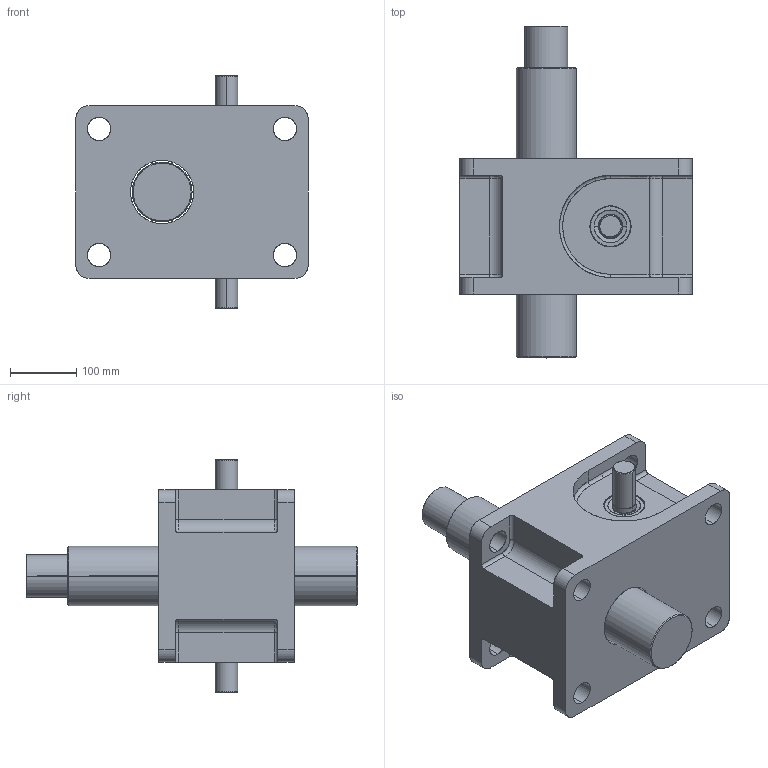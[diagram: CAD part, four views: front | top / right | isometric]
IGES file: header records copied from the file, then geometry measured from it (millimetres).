
Start section: SolidWorks IGES file using analytic representation for surfaces
Global section: file name: E:\3D\desenv\Solid Works\Levy\web\LMA\LMA25_30\LMA25_30.IGS; native system: SolidWorks 2008; preprocessor: SolidWorks 2008; author: User; date: 080730.212751; units: millimetre
Bounding box: 350 x 500 x 350 mm (x, y, z)
Surface area: 779237.4 mm2 (no closed solid volume)
Topology: 0 solids, 0 shells, 197 faces, 4500 edges, 4500 vertices
Faces by surface type: revolution 135, bspline 62
